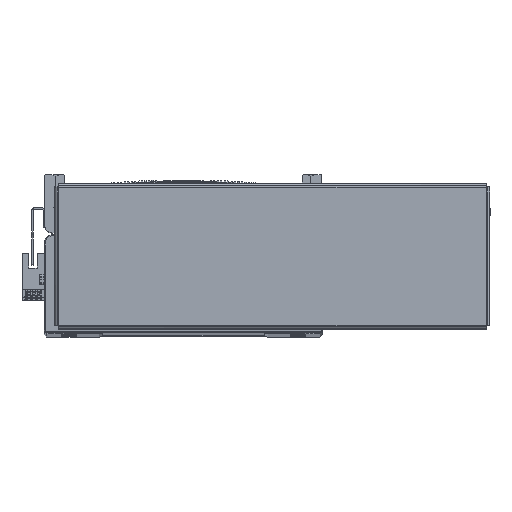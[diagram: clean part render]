
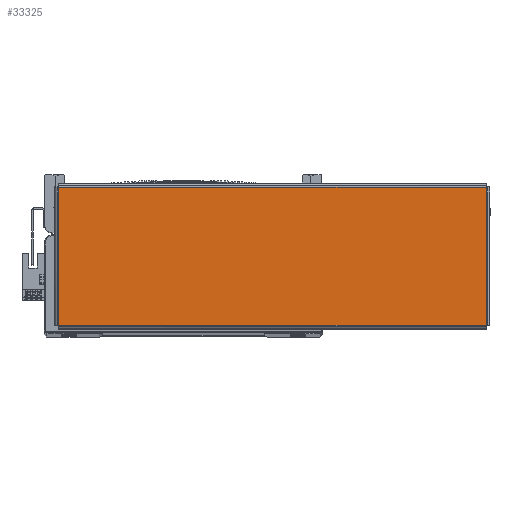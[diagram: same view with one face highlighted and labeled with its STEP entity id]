
A CAD part, top view. The second image highlights one B-rep face of the part: STEP entity #33325.
In plain terms, the highlighted planar face has unit normal (0, 0, 1) as drawn and (0, -1, 0) by its records, which use the part's own axes.
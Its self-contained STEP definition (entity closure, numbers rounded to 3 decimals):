
#993 = FACE_OUTER_BOUND ( 'NONE', #63188, .T. ) ;
#11010 = EDGE_CURVE ( 'NONE', #45721, #45758, #56438, .T. ) ;
#11029 = EDGE_CURVE ( 'NONE', #66627, #45739, #56450, .T. ) ;
#11041 = EDGE_CURVE ( 'NONE', #45739, #45721, #56480, .T. ) ;
#11079 = EDGE_CURVE ( 'NONE', #45758, #66627, #56635, .T. ) ;
#18511 = ORIENTED_EDGE ( 'NONE', *, *, #11041, .T. ) ;
#18568 = ORIENTED_EDGE ( 'NONE', *, *, #11029, .T. ) ;
#18610 = ORIENTED_EDGE ( 'NONE', *, *, #11079, .T. ) ;
#18662 = ORIENTED_EDGE ( 'NONE', *, *, #11010, .T. ) ;
#26425 = CARTESIAN_POINT ( 'NONE',  ( -130.863, -1.5, -42.263 ) ) ;
#26499 = CARTESIAN_POINT ( 'NONE',  ( 130.863, -1.5, -42.263 ) ) ;
#26522 = CARTESIAN_POINT ( 'NONE',  ( -130.863, -1.5, 42.263 ) ) ;
#33325 = ADVANCED_FACE ( 'NONE', ( #993 ), #77019, .F. ) ;
#34855 = CARTESIAN_POINT ( 'NONE',  ( 130.863, -1.5, 42.263 ) ) ;
#45721 = VERTEX_POINT ( 'NONE', #26425 ) ;
#45739 = VERTEX_POINT ( 'NONE', #26522 ) ;
#45758 = VERTEX_POINT ( 'NONE', #26499 ) ;
#56416 = VECTOR ( 'NONE', #58740, 1000. ) ;
#56431 = VECTOR ( 'NONE', #58639, 1000. ) ;
#56438 = LINE ( 'NONE', #58637, #56431 ) ;
#56450 = LINE ( 'NONE', #58702, #56416 ) ;
#56480 = LINE ( 'NONE', #58774, #56513 ) ;
#56513 = VECTOR ( 'NONE', #58673, 1000. ) ;
#56570 = VECTOR ( 'NONE', #58961, 1000. ) ;
#56635 = LINE ( 'NONE', #58929, #56570 ) ;
#58637 = CARTESIAN_POINT ( 'NONE',  ( -130.893, -1.5, -42.263 ) ) ;
#58639 = DIRECTION ( 'NONE',  ( 1., 0., 0. ) ) ;
#58673 = DIRECTION ( 'NONE',  ( 0., 0., -1. ) ) ;
#58702 = CARTESIAN_POINT ( 'NONE',  ( 130.893, -1.5, 42.263 ) ) ;
#58740 = DIRECTION ( 'NONE',  ( -1., 0., 0. ) ) ;
#58774 = CARTESIAN_POINT ( 'NONE',  ( -130.863, -1.5, 42.293 ) ) ;
#58929 = CARTESIAN_POINT ( 'NONE',  ( 130.863, -1.5, -42.293 ) ) ;
#58961 = DIRECTION ( 'NONE',  ( 0., 0., 1. ) ) ;
#63188 = EDGE_LOOP ( 'NONE', ( #18610, #18568, #18511, #18662 ) ) ;
#66627 = VERTEX_POINT ( 'NONE', #34855 ) ;
#67280 = AXIS2_PLACEMENT_3D ( 'NONE', #77156, #77157, #77252 ) ;
#77019 = PLANE ( 'NONE',  #67280 ) ;
#77156 = CARTESIAN_POINT ( 'NONE',  ( 0., -1.5, 0. ) ) ;
#77157 = DIRECTION ( 'NONE',  ( 0., 1., 0. ) ) ;
#77252 = DIRECTION ( 'NONE',  ( 0., 0., 1. ) ) ;
